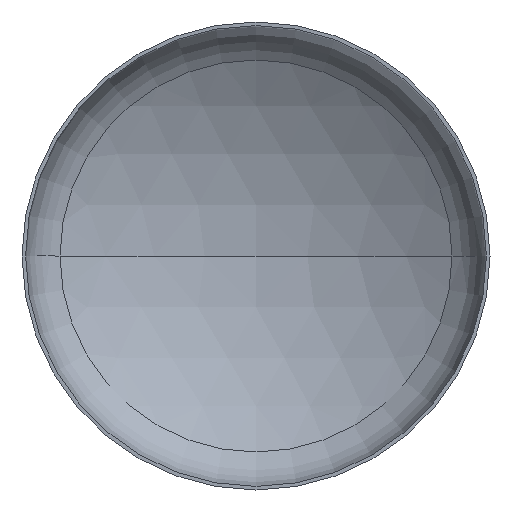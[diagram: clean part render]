
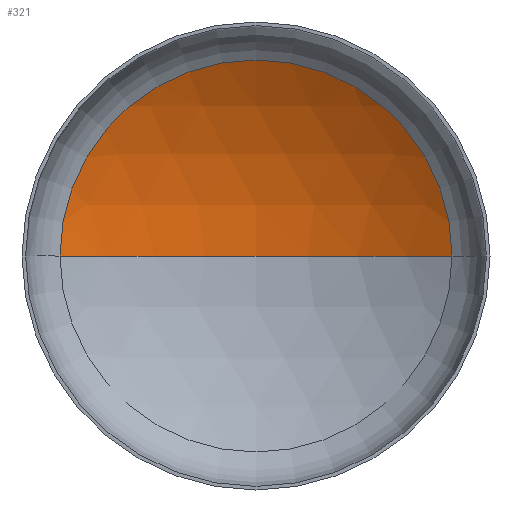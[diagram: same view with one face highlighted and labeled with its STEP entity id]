
A CAD part, front view. The second image highlights one B-rep face of the part: STEP entity #321.
In plain terms, the highlighted spherical face has radius 2880 mm.
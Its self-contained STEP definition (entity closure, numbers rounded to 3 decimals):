
#1 = AXIS2_PLACEMENT_3D ( 'NONE', #132, #172, #171 ) ;
#9 = CARTESIAN_POINT ( 'NONE',  ( 0., -1896.044, 0. ) ) ;
#13 = EDGE_LOOP ( 'NONE', ( #123, #114, #57 ) ) ;
#22 = CARTESIAN_POINT ( 'NONE',  ( 0., 983.956, 0. ) ) ;
#28 = AXIS2_PLACEMENT_3D ( 'NONE', #9, #84, #202 ) ;
#32 = AXIS2_PLACEMENT_3D ( 'NONE', #195, #196, #346 ) ;
#35 = AXIS2_PLACEMENT_3D ( 'NONE', #220, #211, #203 ) ;
#57 = ORIENTED_EDGE ( 'NONE', *, *, #83, .T. ) ;
#67 = VERTEX_POINT ( 'NONE', #356 ) ;
#83 = EDGE_CURVE ( 'NONE', #111, #67, #391, .T. ) ;
#84 = DIRECTION ( 'NONE',  ( 0., 0., 1. ) ) ;
#87 = EDGE_CURVE ( 'NONE', #107, #111, #336, .T. ) ;
#89 = EDGE_CURVE ( 'NONE', #107, #67, #218, .T. ) ;
#107 = VERTEX_POINT ( 'NONE', #22 ) ;
#111 = VERTEX_POINT ( 'NONE', #318 ) ;
#114 = ORIENTED_EDGE ( 'NONE', *, *, #87, .T. ) ;
#123 = ORIENTED_EDGE ( 'NONE', *, *, #89, .F. ) ;
#132 = CARTESIAN_POINT ( 'NONE',  ( 0., -1896.044, 0. ) ) ;
#171 = DIRECTION ( 'NONE',  ( -1., 0., 0. ) ) ;
#172 = DIRECTION ( 'NONE',  ( 0., 0., -1. ) ) ;
#183 = FACE_OUTER_BOUND ( 'NONE', #13, .T. ) ;
#195 = CARTESIAN_POINT ( 'NONE',  ( 0., -1896.044, 0. ) ) ;
#196 = DIRECTION ( 'NONE',  ( 0., 0., -1. ) ) ;
#202 = DIRECTION ( 'NONE',  ( 1., 0., 0. ) ) ;
#203 = DIRECTION ( 'NONE',  ( 1., 0., 0. ) ) ;
#211 = DIRECTION ( 'NONE',  ( 0., -1., 0. ) ) ;
#218 = CIRCLE ( 'NONE', #28, 2880. ) ;
#220 = CARTESIAN_POINT ( 'NONE',  ( 0., 557.894, 0. ) ) ;
#318 = CARTESIAN_POINT ( 'NONE',  ( 1507.51, 557.894, 0. ) ) ;
#321 = ADVANCED_FACE ( 'NONE', ( #183 ), #381, .F. ) ;
#336 = CIRCLE ( 'NONE', #32, 2880. ) ;
#346 = DIRECTION ( 'NONE',  ( -1., 0., 0. ) ) ;
#356 = CARTESIAN_POINT ( 'NONE',  ( -1507.51, 557.894, 0. ) ) ;
#381 = SPHERICAL_SURFACE ( 'NONE', #1, 2880. ) ;
#391 = CIRCLE ( 'NONE', #35, 1507.51 ) ;
